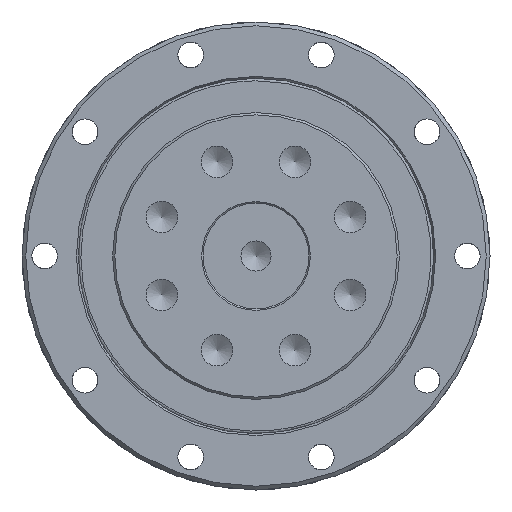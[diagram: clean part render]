
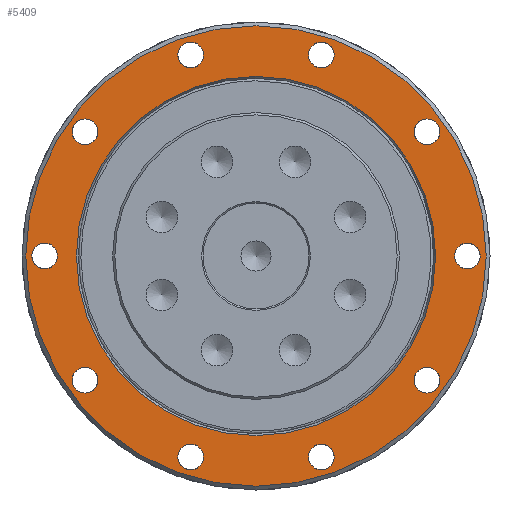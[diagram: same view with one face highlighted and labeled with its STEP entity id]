
A CAD part, left-side view. The second image highlights one B-rep face of the part: STEP entity #5409.
In plain terms, the highlighted planar face has unit normal (-1, 0, 0).
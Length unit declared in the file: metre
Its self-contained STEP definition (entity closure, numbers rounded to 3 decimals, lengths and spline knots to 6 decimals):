
#164 = CARTESIAN_POINT ( 'NONE',  ( -0.018554, 0.022652, 0.016458 ) ) ;
#187 = ORIENTED_EDGE ( 'NONE', *, *, #16935, .F. ) ;
#288 = CARTESIAN_POINT ( 'NONE',  ( -0.018554, 0.008652, -0.02833 ) ) ;
#349 = EDGE_LOOP ( 'NONE', ( #21079 ) ) ;
#350 = EDGE_CURVE ( 'NONE', #9676, #9676, #14178, .T. ) ;
#404 = DIRECTION ( 'NONE',  ( 0., 0., -1. ) ) ;
#459 = FACE_BOUND ( 'NONE', #3235, .T. ) ;
#462 = DIRECTION ( 'NONE',  ( 0., 0., -1. ) ) ;
#757 = ORIENTED_EDGE ( 'NONE', *, *, #14124, .F. ) ;
#1151 = DIRECTION ( 'NONE',  ( 0., 0., -1. ) ) ;
#1195 = FACE_BOUND ( 'NONE', #22649, .T. ) ;
#1298 = AXIS2_PLACEMENT_3D ( 'NONE', #20604, #2953, #10817 ) ;
#1583 = EDGE_LOOP ( 'NONE', ( #17664 ) ) ;
#1774 = DIRECTION ( 'NONE',  ( 0., 0., -1. ) ) ;
#2953 = DIRECTION ( 'NONE',  ( -1., 0., 0. ) ) ;
#3089 = DIRECTION ( 'NONE',  ( -1., 0., 0. ) ) ;
#3122 = DIRECTION ( 'NONE',  ( 0., 0., -1. ) ) ;
#3140 = AXIS2_PLACEMENT_3D ( 'NONE', #20147, #6618, #24012 ) ;
#3212 = CARTESIAN_POINT ( 'NONE',  ( -0.018554, -0.008652, -0.02663 ) ) ;
#3235 = EDGE_LOOP ( 'NONE', ( #15180 ) ) ;
#3292 = VERTEX_POINT ( 'NONE', #11034 ) ;
#3400 = EDGE_LOOP ( 'NONE', ( #7769 ) ) ;
#3457 = DIRECTION ( 'NONE',  ( 0., 0., -1. ) ) ;
#3670 = VERTEX_POINT ( 'NONE', #11553 ) ;
#4187 = EDGE_CURVE ( 'NONE', #20747, #20747, #10357, .T. ) ;
#4361 = CIRCLE ( 'NONE', #7687, 0.0305 ) ;
#4701 = CARTESIAN_POINT ( 'NONE',  ( -0.018554, 0.028, 0. ) ) ;
#4996 = AXIS2_PLACEMENT_3D ( 'NONE', #3212, #3089, #1151 ) ;
#5321 = DIRECTION ( 'NONE',  ( 1., 0., 0. ) ) ;
#5409 = ADVANCED_FACE ( 'NONE', ( #18122, #459, #8312, #22098, #12295, #20172, #1195, #22478, #18746, #22856, #16581, #10881 ), #15009, .F. ) ;
#5633 = CIRCLE ( 'NONE', #21257, 0.0017 ) ;
#5699 = DIRECTION ( 'NONE',  ( -1., 0., 0. ) ) ;
#6290 = CARTESIAN_POINT ( 'NONE',  ( -0.018554, -0.022652, 0.014758 ) ) ;
#6618 = DIRECTION ( 'NONE',  ( -1., 0., 0. ) ) ;
#6769 = CARTESIAN_POINT ( 'NONE',  ( -0.018554, 0., 0. ) ) ;
#7064 = CIRCLE ( 'NONE', #4996, 0.0017 ) ;
#7687 = AXIS2_PLACEMENT_3D ( 'NONE', #6769, #22847, #3122 ) ;
#7769 = ORIENTED_EDGE ( 'NONE', *, *, #4187, .F. ) ;
#8257 = DIRECTION ( 'NONE',  ( -1., 0., 0. ) ) ;
#8312 = FACE_BOUND ( 'NONE', #20261, .T. ) ;
#8698 = EDGE_CURVE ( 'NONE', #3292, #3292, #4361, .T. ) ;
#8770 = ORIENTED_EDGE ( 'NONE', *, *, #20029, .F. ) ;
#8867 = EDGE_CURVE ( 'NONE', #13611, #13611, #5633, .T. ) ;
#8925 = CARTESIAN_POINT ( 'NONE',  ( -0.018554, 0.023789, 0. ) ) ;
#9063 = EDGE_CURVE ( 'NONE', #11167, #11167, #9727, .T. ) ;
#9204 = ORIENTED_EDGE ( 'NONE', *, *, #21140, .F. ) ;
#9254 = CARTESIAN_POINT ( 'NONE',  ( -0.018554, -0.022652, -0.016458 ) ) ;
#9480 = EDGE_CURVE ( 'NONE', #3670, #3670, #21357, .T. ) ;
#9676 = VERTEX_POINT ( 'NONE', #15365 ) ;
#9727 = CIRCLE ( 'NONE', #13019, 0.0017 ) ;
#9954 = DIRECTION ( 'NONE',  ( 0., 0., -1. ) ) ;
#10117 = EDGE_LOOP ( 'NONE', ( #9204 ) ) ;
#10357 = CIRCLE ( 'NONE', #1298, 0.0017 ) ;
#10731 = EDGE_LOOP ( 'NONE', ( #757 ) ) ;
#10817 = DIRECTION ( 'NONE',  ( 0., 0., -1. ) ) ;
#10881 = FACE_BOUND ( 'NONE', #1583, .T. ) ;
#11034 = CARTESIAN_POINT ( 'NONE',  ( -0.018554, 0., -0.0305 ) ) ;
#11090 = AXIS2_PLACEMENT_3D ( 'NONE', #17221, #11152, #23144 ) ;
#11152 = DIRECTION ( 'NONE',  ( -1., 0., 0. ) ) ;
#11167 = VERTEX_POINT ( 'NONE', #15042 ) ;
#11334 = DIRECTION ( 'NONE',  ( -1., 0., 0. ) ) ;
#11553 = CARTESIAN_POINT ( 'NONE',  ( -0.018554, 0., 0.023789 ) ) ;
#11704 = CARTESIAN_POINT ( 'NONE',  ( -0.018554, -0.008652, 0.02663 ) ) ;
#12050 = AXIS2_PLACEMENT_3D ( 'NONE', #8925, #5321, #14629 ) ;
#12054 = ORIENTED_EDGE ( 'NONE', *, *, #8698, .F. ) ;
#12295 = FACE_BOUND ( 'NONE', #13703, .T. ) ;
#13019 = AXIS2_PLACEMENT_3D ( 'NONE', #11704, #19447, #1774 ) ;
#13192 = EDGE_LOOP ( 'NONE', ( #8770 ) ) ;
#13611 = VERTEX_POINT ( 'NONE', #19294 ) ;
#13703 = EDGE_LOOP ( 'NONE', ( #14028 ) ) ;
#13952 = VERTEX_POINT ( 'NONE', #288 ) ;
#14028 = ORIENTED_EDGE ( 'NONE', *, *, #9063, .F. ) ;
#14124 = EDGE_CURVE ( 'NONE', #13952, #13952, #23995, .T. ) ;
#14178 = CIRCLE ( 'NONE', #19125, 0.0017 ) ;
#14404 = CARTESIAN_POINT ( 'NONE',  ( -0.018554, -0.022652, -0.018158 ) ) ;
#14629 = DIRECTION ( 'NONE',  ( 0., 0., -1. ) ) ;
#15009 = PLANE ( 'NONE',  #12050 ) ;
#15042 = CARTESIAN_POINT ( 'NONE',  ( -0.018554, -0.008652, 0.02493 ) ) ;
#15062 = CARTESIAN_POINT ( 'NONE',  ( -0.018554, 0.008652, 0.02493 ) ) ;
#15180 = ORIENTED_EDGE ( 'NONE', *, *, #9480, .F. ) ;
#15307 = CIRCLE ( 'NONE', #16558, 0.0017 ) ;
#15365 = CARTESIAN_POINT ( 'NONE',  ( -0.018554, 0.028, -0.0017 ) ) ;
#16066 = ORIENTED_EDGE ( 'NONE', *, *, #18269, .F. ) ;
#16558 = AXIS2_PLACEMENT_3D ( 'NONE', #9254, #11334, #3457 ) ;
#16581 = FACE_BOUND ( 'NONE', #3400, .T. ) ;
#16880 = CARTESIAN_POINT ( 'NONE',  ( -0.018554, 0.008652, -0.02663 ) ) ;
#16935 = EDGE_CURVE ( 'NONE', #24831, #24831, #22759, .T. ) ;
#17221 = CARTESIAN_POINT ( 'NONE',  ( -0.018554, 0., 0. ) ) ;
#17664 = ORIENTED_EDGE ( 'NONE', *, *, #350, .F. ) ;
#18019 = VERTEX_POINT ( 'NONE', #6290 ) ;
#18122 = FACE_OUTER_BOUND ( 'NONE', #22437, .T. ) ;
#18269 = EDGE_CURVE ( 'NONE', #23300, #23300, #25355, .T. ) ;
#18403 = CARTESIAN_POINT ( 'NONE',  ( -0.018554, -0.008652, -0.02833 ) ) ;
#18746 = FACE_BOUND ( 'NONE', #10117, .T. ) ;
#18820 = CARTESIAN_POINT ( 'NONE',  ( -0.018554, 0.022652, -0.018158 ) ) ;
#19125 = AXIS2_PLACEMENT_3D ( 'NONE', #4701, #20553, #462 ) ;
#19215 = DIRECTION ( 'NONE',  ( -1., 0., 0. ) ) ;
#19294 = CARTESIAN_POINT ( 'NONE',  ( -0.018554, 0.022652, 0.014758 ) ) ;
#19447 = DIRECTION ( 'NONE',  ( -1., 0., 0. ) ) ;
#19995 = CARTESIAN_POINT ( 'NONE',  ( -0.018554, -0.022652, 0.016458 ) ) ;
#19996 = ORIENTED_EDGE ( 'NONE', *, *, #8867, .F. ) ;
#20029 = EDGE_CURVE ( 'NONE', #22256, #22256, #15307, .T. ) ;
#20074 = EDGE_LOOP ( 'NONE', ( #187 ) ) ;
#20147 = CARTESIAN_POINT ( 'NONE',  ( -0.018554, -0.028, 0. ) ) ;
#20172 = FACE_BOUND ( 'NONE', #349, .T. ) ;
#20261 = EDGE_LOOP ( 'NONE', ( #19996 ) ) ;
#20335 = VERTEX_POINT ( 'NONE', #18403 ) ;
#20553 = DIRECTION ( 'NONE',  ( -1., 0., 0. ) ) ;
#20604 = CARTESIAN_POINT ( 'NONE',  ( -0.018554, 0.022652, -0.016458 ) ) ;
#20747 = VERTEX_POINT ( 'NONE', #18820 ) ;
#20911 = EDGE_CURVE ( 'NONE', #18019, #18019, #21069, .T. ) ;
#21069 = CIRCLE ( 'NONE', #24364, 0.0017 ) ;
#21079 = ORIENTED_EDGE ( 'NONE', *, *, #20911, .F. ) ;
#21140 = EDGE_CURVE ( 'NONE', #20335, #20335, #7064, .T. ) ;
#21224 = CARTESIAN_POINT ( 'NONE',  ( -0.018554, -0.028, -0.0017 ) ) ;
#21257 = AXIS2_PLACEMENT_3D ( 'NONE', #164, #5699, #9954 ) ;
#21357 = CIRCLE ( 'NONE', #11090, 0.023789 ) ;
#21953 = AXIS2_PLACEMENT_3D ( 'NONE', #25245, #19215, #24981 ) ;
#22098 = FACE_BOUND ( 'NONE', #20074, .T. ) ;
#22256 = VERTEX_POINT ( 'NONE', #14404 ) ;
#22437 = EDGE_LOOP ( 'NONE', ( #12054 ) ) ;
#22478 = FACE_BOUND ( 'NONE', #13192, .T. ) ;
#22649 = EDGE_LOOP ( 'NONE', ( #16066 ) ) ;
#22671 = DIRECTION ( 'NONE',  ( 0., 0., -1. ) ) ;
#22756 = AXIS2_PLACEMENT_3D ( 'NONE', #16880, #22930, #22671 ) ;
#22759 = CIRCLE ( 'NONE', #21953, 0.0017 ) ;
#22847 = DIRECTION ( 'NONE',  ( 1., 0., 0. ) ) ;
#22856 = FACE_BOUND ( 'NONE', #10731, .T. ) ;
#22930 = DIRECTION ( 'NONE',  ( -1., 0., 0. ) ) ;
#23144 = DIRECTION ( 'NONE',  ( 0., 0., 1. ) ) ;
#23300 = VERTEX_POINT ( 'NONE', #21224 ) ;
#23995 = CIRCLE ( 'NONE', #22756, 0.0017 ) ;
#24012 = DIRECTION ( 'NONE',  ( 0., 0., -1. ) ) ;
#24364 = AXIS2_PLACEMENT_3D ( 'NONE', #19995, #8257, #404 ) ;
#24831 = VERTEX_POINT ( 'NONE', #15062 ) ;
#24981 = DIRECTION ( 'NONE',  ( 0., 0., -1. ) ) ;
#25245 = CARTESIAN_POINT ( 'NONE',  ( -0.018554, 0.008652, 0.02663 ) ) ;
#25355 = CIRCLE ( 'NONE', #3140, 0.0017 ) ;
